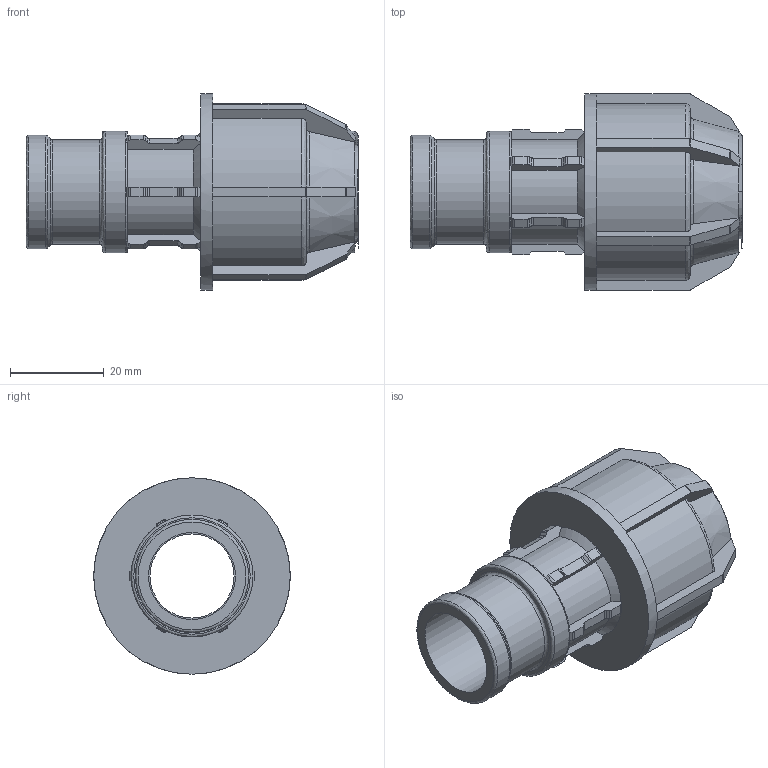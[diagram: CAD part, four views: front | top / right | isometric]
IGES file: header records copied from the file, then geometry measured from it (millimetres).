
Global section: file name: 140300020005.ipt; native system: Autodesk Inventor 2015; preprocessor: unknown; author: KIM; date: 20180409.131003; units: millimetre
Bounding box: 71 x 42 x 42 mm (x, y, z)
Volume: 28737.1 mm3; surface area: 14317.1 mm2
Topology: 1 solids, 1 shells, 261 faces, 745 edges, 480 vertices
Faces by surface type: plane 160, cylinder 52, revolution 36, cone 13
Full cylindrical faces by diameter (mm): 22.357 x1, 24.22 x1, 26.083 x1, 42 x1
